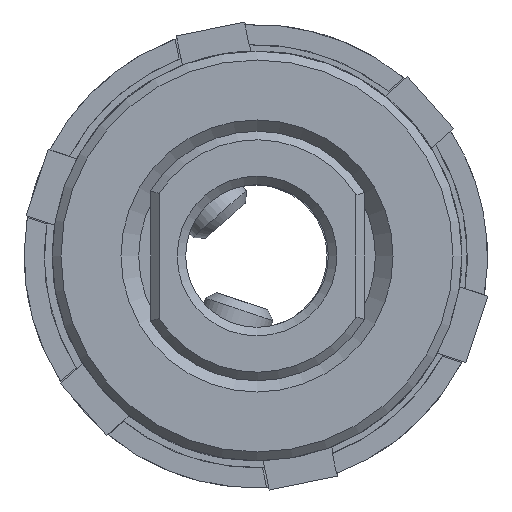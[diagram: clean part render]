
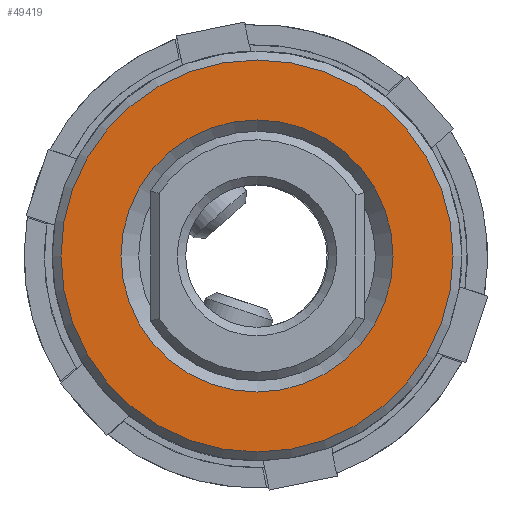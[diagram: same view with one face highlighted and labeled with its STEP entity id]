
A CAD part, front view. The second image highlights one B-rep face of the part: STEP entity #49419.
In plain terms, the highlighted planar face has unit normal (0, -1, 0).
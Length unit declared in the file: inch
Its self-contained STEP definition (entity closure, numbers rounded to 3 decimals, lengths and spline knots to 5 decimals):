
#49388=CARTESIAN_POINT('',(0.6875,-0.1875,0.));
#49389=VERTEX_POINT('',#49388);
#49390=CARTESIAN_POINT('',(0.,-0.1875,0.0));
#49391=DIRECTION('',(0.0,1.0,0.0));
#49392=DIRECTION('',(-1.0,0.0,0.0));
#49393=AXIS2_PLACEMENT_3D('',#49390,#49391,#49392);
#49394=CIRCLE('',#49393,0.6875);
#49395=EDGE_CURVE('',#49389,#49389,#49394,.T.);
#49400=CARTESIAN_POINT('',(0.56675,-0.1875,0.0));
#49401=DIRECTION('',(0.0,-1.0,0.0));
#49402=DIRECTION('',(0.0,0.0,-1.0));
#49403=AXIS2_PLACEMENT_3D('',#49400,#49401,#49402);
#49404=PLANE('',#49403);
#49405=ORIENTED_EDGE('',*,*,#49395,.F.);
#49406=EDGE_LOOP('',(#49405));
#49407=FACE_OUTER_BOUND('',#49406,.T.);
#49408=CARTESIAN_POINT('',(0.477,-0.1875,0.));
#49409=VERTEX_POINT('',#49408);
#49410=CARTESIAN_POINT('',(0.,-0.1875,0.0));
#49411=DIRECTION('',(0.0,-1.0,0.0));
#49412=DIRECTION('',(-1.0,0.0,0.0));
#49413=AXIS2_PLACEMENT_3D('',#49410,#49411,#49412);
#49414=CIRCLE('',#49413,0.477);
#49415=EDGE_CURVE('',#49409,#49409,#49414,.T.);
#49416=ORIENTED_EDGE('',*,*,#49415,.F.);
#49417=EDGE_LOOP('',(#49416));
#49418=FACE_BOUND('',#49417,.T.);
#49419=ADVANCED_FACE('',(#49407,#49418),#49404,.T.);
